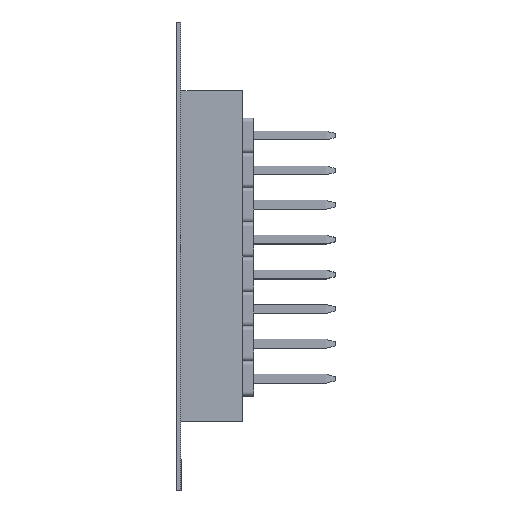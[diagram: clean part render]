
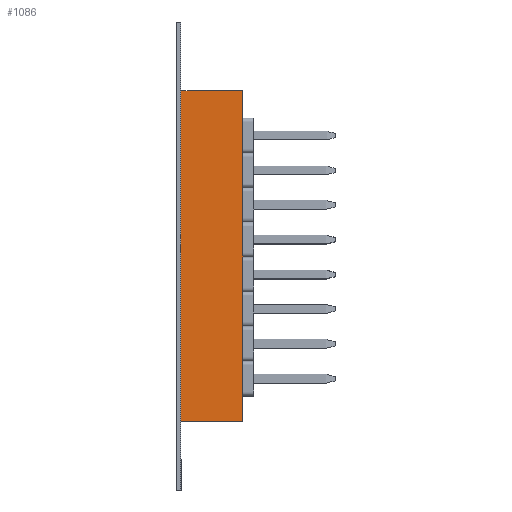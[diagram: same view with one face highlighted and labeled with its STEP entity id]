
A CAD part, left-side view. The second image highlights one B-rep face of the part: STEP entity #1086.
In plain terms, the highlighted planar face has unit normal (-1, 0, 0).
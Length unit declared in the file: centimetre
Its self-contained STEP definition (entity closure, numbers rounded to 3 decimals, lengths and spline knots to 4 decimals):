
#247=ORIENTED_EDGE('',*,*,#416,.T.);
#248=ORIENTED_EDGE('',*,*,#420,.T.);
#249=ORIENTED_EDGE('',*,*,#432,.T.);
#250=ORIENTED_EDGE('',*,*,#430,.F.);
#416=EDGE_CURVE('',#532,#533,#640,.T.);
#420=EDGE_CURVE('',#533,#536,#644,.T.);
#430=EDGE_CURVE('',#532,#541,#654,.T.);
#432=EDGE_CURVE('',#536,#541,#656,.T.);
#532=VERTEX_POINT('',#2300);
#533=VERTEX_POINT('',#2301);
#536=VERTEX_POINT('',#2309);
#541=VERTEX_POINT('',#2329);
#640=LINE('',#2299,#766);
#644=LINE('',#2308,#770);
#654=LINE('',#2328,#780);
#656=LINE('',#2332,#782);
#766=VECTOR('',#1894,100.);
#770=VECTOR('',#1900,100.);
#780=VECTOR('',#1920,100.);
#782=VECTOR('',#1924,100.);
#883=EDGE_LOOP('',(#247,#248,#249,#250));
#969=FACE_BOUND('',#883,.T.);
#1024=PLANE('',#1623);
#1086=ADVANCED_FACE('',(#969),#1024,.F.);
#1623=AXIS2_PLACEMENT_3D('',#2331,#1922,#1923);
#1894=DIRECTION('',(0.,0.,1.));
#1900=DIRECTION('',(0.,1.,0.));
#1920=DIRECTION('',(0.,1.,0.));
#1922=DIRECTION('',(1.,0.,0.));
#1923=DIRECTION('',(0.,0.,-1.));
#1924=DIRECTION('',(0.,0.,-1.));
#2299=CARTESIAN_POINT('',(33.7205,-0.15,0.0402));
#2300=CARTESIAN_POINT('',(33.7205,-0.15,-1.1663));
#2301=CARTESIAN_POINT('',(33.7205,-0.15,1.2391));
#2308=CARTESIAN_POINT('',(33.7205,-0.15,1.2391));
#2309=CARTESIAN_POINT('',(33.7205,0.2992,1.2391));
#2328=CARTESIAN_POINT('',(33.7205,-0.15,-1.1663));
#2329=CARTESIAN_POINT('',(33.7205,0.2992,-1.1663));
#2331=CARTESIAN_POINT('',(33.7205,0.35,-1.1663));
#2332=CARTESIAN_POINT('',(33.7205,0.2992,0.0364));
